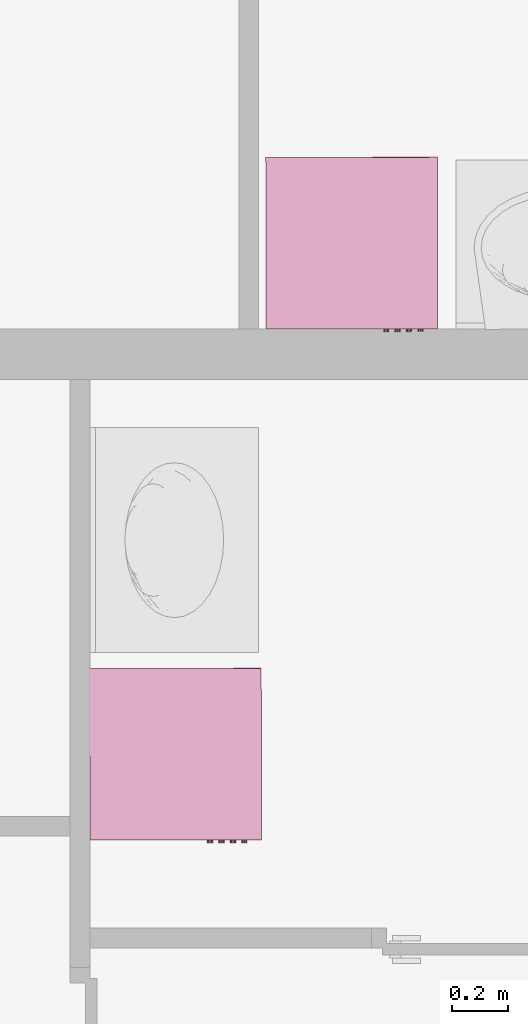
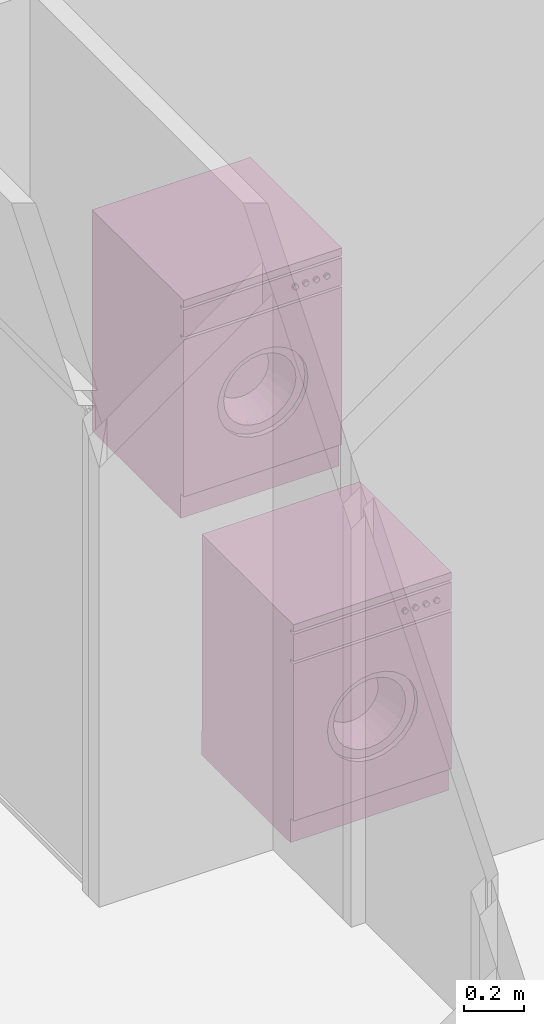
# One storey, part 134 of 171: 2 furnishings.
"""IFC2X3 building model written with IfcOpenShell, lengths in millimetres."""

from ifc_helpers import new_model, entity, si_unit, converted_unit, derived_unit, money_unit, direction, frame, origin_with_axes, place, context, subcontext, project, spatial, open_shell, faceted_brep, surface_model, source, transform, mapped, type_object, element, save


model = new_model("IFC2X3")

# Units and contexts
model_context = context("Model", 3, precision=0.01, world=origin_with_axes(), true_north=direction((0.0, 1.0)))
body_context = subcontext(model_context, "Body", "Model", "MODEL_VIEW")
ifc_project = project(units=[si_unit("LENGTHUNIT", "METRE", prefix="MILLI"), si_unit("AREAUNIT", "SQUARE_METRE"), si_unit("VOLUMEUNIT", "CUBIC_METRE"), converted_unit("PLANEANGLEUNIT", "DEGREE", entity("IfcPlaneAngleMeasure", 0.0174532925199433), si_unit("PLANEANGLEUNIT", "RADIAN"), dimensions=[0, 0, 0, 0, 0, 0, 0]), money_unit("USD"), converted_unit("TIMEUNIT", "Year", entity("IfcTimeMeasure", 31557600.0), si_unit("TIMEUNIT", "SECOND"), dimensions=[0, 0, 1, 0, 0, 0, 0]), si_unit("MASSUNIT", "GRAM", prefix="KILO"), si_unit("THERMODYNAMICTEMPERATUREUNIT", "DEGREE_CELSIUS"), si_unit("LUMINOUSINTENSITYUNIT", "LUMEN"), si_unit("ENERGYUNIT", "JOULE", prefix="MEGA"), derived_unit("THERMALCONDUCTANCEUNIT", [(si_unit("POWERUNIT", "WATT"), 1), (si_unit("LENGTHUNIT", "METRE"), -1), (si_unit("THERMODYNAMICTEMPERATUREUNIT", "KELVIN"), -1)]), derived_unit("SPECIFICHEATCAPACITYUNIT", [(si_unit("ENERGYUNIT", "JOULE"), 1), (si_unit("MASSUNIT", "GRAM", prefix="KILO"), -1), (si_unit("THERMODYNAMICTEMPERATUREUNIT", "KELVIN"), -1)]), derived_unit("MASSDENSITYUNIT", [(si_unit("MASSUNIT", "GRAM", prefix="KILO"), 1), (si_unit("VOLUMEUNIT", "CUBIC_METRE"), -1)])], contexts=[model_context])

# Site, building, storey
site_placement = place(None, origin_with_axes())
site = spatial("IfcSite", under=ifc_project, at=site_placement, Name="Site", CompositionType="ELEMENT")
building_placement = place(site_placement, origin_with_axes())
building = spatial("IfcBuilding", under=site, at=building_placement, Name="Bâtiment", CompositionType="ELEMENT")
storey_placement = place(building_placement, frame((0.0, 0.0, 3000.0), z_axis=(0.0, 0.0, 1.0), x_axis=(1.0, 0.0, 0.0)))
storey = spatial("IfcBuildingStorey", under=building, at=storey_placement, Name="rdc", CompositionType="ELEMENT", Elevation=3000.0)

# Furnishings
furnishing_element_type = type_object("IfcFurnishingElementType", Name="Machine à laver")
shared_shape = source(origin_with_axes(), body_context, "Body", "SurfaceModel", [
    faceted_brep([(0.0, 20.33333333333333, 100.0), (0.0, 0.0, 100.0), (-610.0, 0.0, 100.0), (-610.0, 20.33333333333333, 100.0), (0.0, 20.33333333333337, 740.0), (0.0, 0.0, 740.0), (-610.0, 0.0, 740.0), (-479.2857142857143, 0.0, 420.0000000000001), (-473.3470725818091, 0.0, 465.1084621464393), (-455.935856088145, 0.0, 507.1428571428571), (-428.2386104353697, 0.0, 543.2386104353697), (-392.1428571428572, 0.0, 570.935856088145), (-350.1084621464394, 0.0, 588.347072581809), (-305.0000000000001, 0.0, 594.2857142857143), (-259.8915378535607, 0.0, 588.347072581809), (-217.8571428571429, 0.0, 570.9358560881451), (-181.7613895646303, 0.0, 543.2386104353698), (-154.0641439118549, 0.0, 507.1428571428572), (-136.6529274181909, 0.0, 465.1084621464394), (-130.7142857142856, 0.0, 420.0000000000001), (-136.6529274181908, 0.0, 374.8915378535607), (-154.0641439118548, 0.0, 332.8571428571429), (-181.7613895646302, 0.0, 296.7613895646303), (-217.8571428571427, 0.0, 269.064143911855), (-259.8915378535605, 0.0, 251.6529274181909), (-304.9999999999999, 0.0, 245.7142857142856), (-350.1084621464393, 0.0, 251.6529274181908), (-392.1428571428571, 0.0, 269.0641439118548), (-428.2386104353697, 0.0, 296.7613895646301), (-455.935856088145, 0.0, 332.8571428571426), (-473.3470725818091, 0.0, 374.8915378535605), (-610.0, 20.33333333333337, 740.0), (-479.2857142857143, 20.33333333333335, 420.0000000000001), (-473.3470725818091, 20.33333333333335, 374.8915378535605), (-455.935856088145, 20.33333333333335, 332.8571428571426), (-428.2386104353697, 20.33333333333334, 296.7613895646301), (-392.1428571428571, 20.33333333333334, 269.0641439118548), (-350.1084621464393, 20.33333333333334, 251.6529274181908), (-304.9999999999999, 20.33333333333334, 245.7142857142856), (-259.8915378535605, 20.33333333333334, 251.6529274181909), (-217.8571428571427, 20.33333333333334, 269.064143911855), (-181.7613895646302, 20.33333333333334, 296.7613895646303), (-154.0641439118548, 20.33333333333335, 332.8571428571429), (-136.6529274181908, 20.33333333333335, 374.8915378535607), (-130.7142857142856, 20.33333333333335, 420.0000000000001), (-136.6529274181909, 20.33333333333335, 465.1084621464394), (-154.0641439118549, 20.33333333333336, 507.1428571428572), (-181.7613895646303, 20.33333333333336, 543.2386104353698), (-217.8571428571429, 20.33333333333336, 570.9358560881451), (-259.8915378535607, 20.33333333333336, 588.347072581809), (-305.0000000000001, 20.33333333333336, 594.2857142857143), (-350.1084621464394, 20.33333333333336, 588.347072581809), (-392.1428571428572, 20.33333333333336, 570.935856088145), (-428.2386104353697, 20.33333333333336, 543.2386104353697), (-455.935856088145, 20.33333333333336, 507.1428571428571), (-473.3470725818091, 20.33333333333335, 465.1084621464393)], [[[0, 1, 2, 3]], [[4, 5, 1, 0]], [[1, 5, 6, 2], [7, 8, 9, 10, 11, 12, 13, 14, 15, 16, 17, 18, 19, 20, 21, 22, 23, 24, 25, 26, 27, 28, 29, 30]], [[3, 2, 6, 31]], [[0, 3, 31, 4], [32, 33, 34, 35, 36, 37, 38, 39, 40, 41, 42, 43, 44, 45, 46, 47, 48, 49, 50, 51, 52, 53, 54, 55]], [[31, 6, 5, 4]], [[55, 8, 7, 32]], [[54, 9, 8, 55]], [[53, 10, 9, 54]], [[52, 11, 10, 53]], [[51, 12, 11, 52]], [[50, 13, 12, 51]], [[49, 14, 13, 50]], [[48, 15, 14, 49]], [[47, 16, 15, 48]], [[46, 17, 16, 47]], [[45, 18, 17, 46]], [[44, 19, 18, 45]], [[43, 20, 19, 44]], [[42, 21, 20, 43]], [[41, 22, 21, 42]], [[40, 23, 22, 41]], [[39, 24, 23, 40]], [[38, 25, 24, 39]], [[37, 26, 25, 38]], [[36, 27, 26, 37]], [[35, 28, 27, 36]], [[34, 29, 28, 35]], [[33, 30, 29, 34]], [[32, 7, 30, 33]]]),
    faceted_brep([(-479.2857142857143, 40.66666666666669, 420.0000000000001), (-479.2857142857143, 20.33333333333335, 420.0000000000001), (-473.3470725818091, 20.33333333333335, 465.1084621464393), (-473.3470725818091, 40.66666666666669, 465.1084621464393), (-473.3470725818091, 40.66666666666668, 374.8915378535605), (-473.3470725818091, 20.33333333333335, 374.8915378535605), (-455.935856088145, 20.33333333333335, 332.8571428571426), (-428.2386104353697, 20.33333333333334, 296.7613895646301), (-392.1428571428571, 20.33333333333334, 269.0641439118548), (-350.1084621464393, 20.33333333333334, 251.6529274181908), (-304.9999999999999, 20.33333333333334, 245.7142857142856), (-259.8915378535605, 20.33333333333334, 251.6529274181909), (-217.8571428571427, 20.33333333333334, 269.064143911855), (-181.7613895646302, 20.33333333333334, 296.7613895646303), (-154.0641439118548, 20.33333333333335, 332.8571428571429), (-136.6529274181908, 20.33333333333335, 374.8915378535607), (-130.7142857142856, 20.33333333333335, 420.0000000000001), (-136.6529274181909, 20.33333333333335, 465.1084621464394), (-154.0641439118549, 20.33333333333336, 507.1428571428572), (-181.7613895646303, 20.33333333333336, 543.2386104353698), (-217.8571428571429, 20.33333333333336, 570.9358560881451), (-259.8915378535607, 20.33333333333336, 588.347072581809), (-305.0000000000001, 20.33333333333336, 594.2857142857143), (-350.1084621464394, 20.33333333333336, 588.347072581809), (-392.1428571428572, 20.33333333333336, 570.935856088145), (-428.2386104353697, 20.33333333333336, 543.2386104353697), (-455.935856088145, 20.33333333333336, 507.1428571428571), (-444.4285714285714, 20.33333333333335, 420.0000000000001), (-439.6776580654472, 20.33333333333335, 456.0867697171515), (-425.748684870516, 20.33333333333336, 489.7142857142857), (-403.5908883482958, 20.33333333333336, 518.5908883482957), (-374.7142857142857, 20.33333333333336, 540.748684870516), (-341.0867697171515, 20.33333333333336, 554.6776580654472), (-305.0000000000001, 20.33333333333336, 559.4285714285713), (-268.9132302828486, 20.33333333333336, 554.6776580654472), (-235.2857142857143, 20.33333333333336, 540.7486848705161), (-206.4091116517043, 20.33333333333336, 518.5908883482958), (-184.251315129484, 20.33333333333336, 489.7142857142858), (-170.3223419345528, 20.33333333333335, 456.0867697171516), (-165.5714285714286, 20.33333333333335, 420.0000000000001), (-170.3223419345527, 20.33333333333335, 383.9132302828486), (-184.2513151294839, 20.33333333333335, 350.2857142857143), (-206.4091116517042, 20.33333333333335, 321.4091116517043), (-235.2857142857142, 20.33333333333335, 299.251315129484), (-268.9132302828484, 20.33333333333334, 285.3223419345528), (-304.9999999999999, 20.33333333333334, 280.5714285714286), (-341.0867697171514, 20.33333333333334, 285.3223419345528), (-374.7142857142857, 20.33333333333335, 299.2513151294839), (-403.5908883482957, 20.33333333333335, 321.4091116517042), (-425.748684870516, 20.33333333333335, 350.2857142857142), (-439.6776580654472, 20.33333333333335, 383.9132302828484), (-455.935856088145, 40.66666666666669, 507.1428571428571), (-428.2386104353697, 40.66666666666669, 543.2386104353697), (-392.1428571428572, 40.66666666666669, 570.935856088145), (-350.1084621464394, 40.66666666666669, 588.347072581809), (-305.0000000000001, 40.66666666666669, 594.2857142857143), (-259.8915378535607, 40.66666666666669, 588.347072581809), (-217.8571428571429, 40.66666666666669, 570.9358560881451), (-181.7613895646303, 40.66666666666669, 543.2386104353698), (-154.0641439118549, 40.66666666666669, 507.1428571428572), (-136.6529274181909, 40.66666666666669, 465.1084621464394), (-130.7142857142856, 40.66666666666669, 420.0000000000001), (-136.6529274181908, 40.66666666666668, 374.8915378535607), (-154.0641439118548, 40.66666666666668, 332.8571428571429), (-181.7613895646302, 40.66666666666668, 296.7613895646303), (-217.8571428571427, 40.66666666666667, 269.064143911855), (-259.8915378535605, 40.66666666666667, 251.6529274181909), (-304.9999999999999, 40.66666666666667, 245.7142857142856), (-350.1084621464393, 40.66666666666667, 251.6529274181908), (-392.1428571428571, 40.66666666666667, 269.0641439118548), (-428.2386104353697, 40.66666666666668, 296.7613895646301), (-455.935856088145, 40.66666666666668, 332.8571428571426), (-444.4285714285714, 40.66666666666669, 420.0000000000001), (-439.6776580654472, 40.66666666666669, 383.9132302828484), (-425.748684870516, 40.66666666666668, 350.2857142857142), (-403.5908883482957, 40.66666666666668, 321.4091116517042), (-374.7142857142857, 40.66666666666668, 299.2513151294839), (-341.0867697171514, 40.66666666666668, 285.3223419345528), (-304.9999999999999, 40.66666666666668, 280.5714285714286), (-268.9132302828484, 40.66666666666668, 285.3223419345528), (-235.2857142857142, 40.66666666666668, 299.251315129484), (-206.4091116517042, 40.66666666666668, 321.4091116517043), (-184.2513151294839, 40.66666666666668, 350.2857142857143), (-170.3223419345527, 40.66666666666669, 383.9132302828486), (-165.5714285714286, 40.66666666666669, 420.0000000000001), (-170.3223419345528, 40.66666666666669, 456.0867697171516), (-184.251315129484, 40.66666666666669, 489.7142857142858), (-206.4091116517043, 40.66666666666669, 518.5908883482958), (-235.2857142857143, 40.66666666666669, 540.7486848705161), (-268.9132302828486, 40.66666666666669, 554.6776580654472), (-305.0000000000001, 40.66666666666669, 559.4285714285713), (-341.0867697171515, 40.66666666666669, 554.6776580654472), (-374.7142857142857, 40.66666666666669, 540.748684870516), (-403.5908883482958, 40.66666666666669, 518.5908883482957), (-425.748684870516, 40.66666666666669, 489.7142857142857), (-439.6776580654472, 40.66666666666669, 456.0867697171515)], [[[0, 1, 2, 3]], [[4, 5, 1, 0]], [[1, 5, 6, 7, 8, 9, 10, 11, 12, 13, 14, 15, 16, 17, 18, 19, 20, 21, 22, 23, 24, 25, 26, 2], [27, 28, 29, 30, 31, 32, 33, 34, 35, 36, 37, 38, 39, 40, 41, 42, 43, 44, 45, 46, 47, 48, 49, 50]], [[3, 2, 26, 51]], [[0, 3, 51, 52, 53, 54, 55, 56, 57, 58, 59, 60, 61, 62, 63, 64, 65, 66, 67, 68, 69, 70, 71, 4], [72, 73, 74, 75, 76, 77, 78, 79, 80, 81, 82, 83, 84, 85, 86, 87, 88, 89, 90, 91, 92, 93, 94, 95]], [[71, 6, 5, 4]], [[70, 7, 6, 71]], [[69, 8, 7, 70]], [[68, 9, 8, 69]], [[67, 10, 9, 68]], [[66, 11, 10, 67]], [[65, 12, 11, 66]], [[64, 13, 12, 65]], [[63, 14, 13, 64]], [[62, 15, 14, 63]], [[61, 16, 15, 62]], [[60, 17, 16, 61]], [[59, 18, 17, 60]], [[58, 19, 18, 59]], [[57, 20, 19, 58]], [[56, 21, 20, 57]], [[55, 22, 21, 56]], [[54, 23, 22, 55]], [[53, 24, 23, 54]], [[52, 25, 24, 53]], [[51, 26, 25, 52]], [[95, 28, 27, 72]], [[94, 29, 28, 95]], [[93, 30, 29, 94]], [[92, 31, 30, 93]], [[91, 32, 31, 92]], [[90, 33, 32, 91]], [[89, 34, 33, 90]], [[88, 35, 34, 89]], [[87, 36, 35, 88]], [[86, 37, 36, 87]], [[85, 38, 37, 86]], [[84, 39, 38, 85]], [[83, 40, 39, 84]], [[82, 41, 40, 83]], [[81, 42, 41, 82]], [[80, 43, 42, 81]], [[79, 44, 43, 80]], [[78, 45, 44, 79]], [[77, 46, 45, 78]], [[76, 47, 46, 77]], [[75, 48, 47, 76]], [[74, 49, 48, 75]], [[73, 50, 49, 74]], [[72, 27, 50, 73]]]),
    surface_model("IfcShellBasedSurfaceModel", [(-268.9132302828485, 40.6666666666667, 554.6776580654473), (-277.9349227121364, 142.3333333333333, 521.0082435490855), (-305.0, 142.3333333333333, 524.5714285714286), (-305.0, 40.6666666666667, 559.4285714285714), (-235.2857142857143, 40.6666666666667, 540.7486848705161), (-252.7142857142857, 142.3333333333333, 510.5615136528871), (-231.0568337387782, 142.3333333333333, 493.9431662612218), (-214.438486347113, 142.3333333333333, 472.2857142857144), (-203.9917564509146, 142.3333333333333, 447.0650772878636), (-200.4285714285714, 142.3333333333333, 420.0000000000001), (-203.9917564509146, 142.3333333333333, 392.9349227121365), (-214.4384863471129, 142.3333333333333, 367.7142857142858), (-231.0568337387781, 142.3333333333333, 346.0568337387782), (-252.7142857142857, 142.3333333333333, 329.438486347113), (-277.9349227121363, 142.3333333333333, 318.9917564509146), (-304.9999999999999, 142.3333333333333, 315.4285714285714), (-332.0650772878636, 142.3333333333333, 318.9917564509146), (-357.2857142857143, 142.3333333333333, 329.438486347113), (-378.9431662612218, 142.3333333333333, 346.0568337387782), (-395.561513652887, 142.3333333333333, 367.7142857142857), (-406.0082435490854, 142.3333333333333, 392.9349227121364), (-409.5714285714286, 142.3333333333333, 420.0), (-406.0082435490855, 142.3333333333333, 447.0650772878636), (-395.5615136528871, 142.3333333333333, 472.2857142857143), (-378.9431662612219, 142.3333333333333, 493.9431662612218), (-357.2857142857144, 142.3333333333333, 510.5615136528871), (-332.0650772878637, 142.3333333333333, 521.0082435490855), (-341.0867697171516, 40.6666666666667, 554.6776580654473), (-206.4091116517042, 40.66666666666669, 518.5908883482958), (-184.251315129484, 40.66666666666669, 489.7142857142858), (-170.3223419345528, 40.66666666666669, 456.0867697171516), (-165.5714285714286, 40.66666666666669, 420.0000000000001), (-170.3223419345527, 40.66666666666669, 383.9132302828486), (-184.2513151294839, 40.66666666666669, 350.2857142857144), (-206.4091116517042, 40.66666666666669, 321.4091116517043), (-235.2857142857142, 40.66666666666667, 299.251315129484), (-268.9132302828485, 40.66666666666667, 285.3223419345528), (-304.9999999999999, 40.66666666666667, 280.5714285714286), (-341.0867697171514, 40.66666666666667, 285.3223419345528), (-374.7142857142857, 40.66666666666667, 299.2513151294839), (-403.5908883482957, 40.66666666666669, 321.4091116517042), (-425.748684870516, 40.66666666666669, 350.2857142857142), (-439.6776580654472, 40.66666666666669, 383.9132302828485), (-444.4285714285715, 40.66666666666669, 419.9999999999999), (-439.6776580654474, 40.66666666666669, 456.0867697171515), (-425.7486848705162, 40.66666666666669, 489.7142857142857), (-403.5908883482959, 40.66666666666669, 518.5908883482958), (-374.7142857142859, 40.6666666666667, 540.7486848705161)], [open_shell([[[0, 1, 2, 3]], [[4, 5, 1, 0]], [[2, 1, 5, 6, 7, 8, 9, 10, 11, 12, 13, 14, 15, 16, 17, 18, 19, 20, 21, 22, 23, 24, 25, 26]], [[3, 2, 26, 27]], [[28, 6, 5, 4]], [[29, 7, 6, 28]], [[30, 8, 7, 29]], [[31, 9, 8, 30]], [[32, 10, 9, 31]], [[33, 11, 10, 32]], [[34, 12, 11, 33]], [[35, 13, 12, 34]], [[36, 14, 13, 35]], [[37, 15, 14, 36]], [[38, 16, 15, 37]], [[39, 17, 16, 38]], [[40, 18, 17, 39]], [[41, 19, 18, 40]], [[42, 20, 19, 41]], [[43, 21, 20, 42]], [[44, 22, 21, 43]], [[45, 23, 22, 44]], [[46, 24, 23, 45]], [[47, 25, 24, 46]], [[27, 26, 25, 47]]])]),
    surface_model("IfcShellBasedSurfaceModel", [(0.0, 20.33333333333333, 100.0), (0.0, 610.0, 99.99999999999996), (0.0, 610.0, 870.0), (0.0, 20.33333333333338, 870.0)], [open_shell([[[0, 1, 2, 3]]])]),
    surface_model("IfcShellBasedSurfaceModel", [(-610.0, 20.33333333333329, 100.0), (-610.0, 610.0, 99.99999999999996), (-610.0, 610.0, 870.0), (-610.0, 20.33333333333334, 870.0)], [open_shell([[[0, 1, 2, 3]]])]),
    surface_model("IfcShellBasedSurfaceModel", [(0.0, 610.0, 100.0), (-610.0, 610.0, 100.0), (-610.0, 610.0, 870.0), (0.0, 610.0, 870.0)], [open_shell([[[0, 1, 2, 3]]])]),
    faceted_brep([(0.0, 20.33333333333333, 0.0), (0.0, 20.33333333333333, 100.0), (-610.0, 20.33333333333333, 100.0), (-610.0, 20.33333333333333, 0.0), (0.0, 610.3333333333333, 0.0), (0.0, 610.3333333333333, 100.0), (-610.0, 610.3333333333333, 100.0), (-610.0, 610.3333333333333, 0.0)], [[[0, 1, 2, 3]], [[4, 5, 1, 0]], [[1, 5, 6, 2]], [[3, 2, 6, 7]], [[0, 3, 7, 4]], [[7, 6, 5, 4]]]),
    faceted_brep([(0.0, 20.33333333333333, 750.0), (0.0, 0.0, 750.0), (-610.0, 0.0, 750.0), (-610.0, 20.33333333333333, 750.0), (0.0, 20.33333333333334, 860.0), (0.0, 0.0, 860.0), (-610.0, 0.0, 860.0), (-610.0, 20.33333333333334, 860.0)], [[[0, 1, 2, 3]], [[4, 5, 1, 0]], [[1, 5, 6, 2]], [[3, 2, 6, 7]], [[0, 3, 7, 4]], [[7, 6, 5, 4]]]),
    surface_model("IfcShellBasedSurfaceModel", [(0.0, 20.33333333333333, 739.8333333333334), (-610.0, 20.33333333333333, 739.8333333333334), (-610.0, 20.33333333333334, 869.8333333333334), (0.0, 20.33333333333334, 869.8333333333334)], [open_shell([[[0, 1, 2, 3]]])]),
    faceted_brep([(0.0, 0.0, 870.0), (0.0, 0.0, 900.0), (-610.0, 0.0, 900.0), (-610.0, 0.0, 870.0), (0.0, 610.0, 870.0), (0.0, 610.0, 900.0), (-610.0, 610.0, 900.0), (-610.0, 610.0, 870.0)], [[[0, 1, 2, 3]], [[4, 5, 1, 0]], [[1, 5, 6, 2]], [[3, 2, 6, 7]], [[0, 3, 7, 4]], [[7, 6, 5, 4]]]),
    faceted_brep([(-69.80459160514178, 0.0, 804.9166666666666), (-71.16666666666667, 0.0, 809.9999999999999), (-69.8045916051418, 0.0, 815.0833333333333), (-66.08333333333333, 0.0, 818.8045916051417), (-61.0, 0.0, 820.1666666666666), (-55.91666666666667, 0.0, 818.8045916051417), (-52.19540839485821, 0.0, 815.0833333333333), (-50.83333333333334, 0.0, 809.9999999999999), (-52.1954083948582, 0.0, 804.9166666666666), (-55.91666666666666, 0.0, 801.1954083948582), (-60.99999999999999, 0.0, 799.8333333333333), (-66.08333333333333, 0.0, 801.1954083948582), (-69.80459160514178, -10.16666666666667, 804.9166666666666), (-71.16666666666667, -10.16666666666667, 809.9999999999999), (-69.8045916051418, -10.16666666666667, 815.0833333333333), (-66.08333333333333, -10.16666666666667, 818.8045916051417), (-61.0, -10.16666666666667, 820.1666666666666), (-55.91666666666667, -10.16666666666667, 818.8045916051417), (-52.19540839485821, -10.16666666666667, 815.0833333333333), (-50.83333333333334, -10.16666666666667, 809.9999999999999), (-52.1954083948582, -10.16666666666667, 804.9166666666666), (-55.91666666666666, -10.16666666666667, 801.1954083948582), (-60.99999999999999, -10.16666666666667, 799.8333333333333), (-66.08333333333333, -10.16666666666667, 801.1954083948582)], [[[0, 1, 2, 3, 4, 5, 6, 7, 8, 9, 10, 11]], [[0, 12, 13, 1]], [[1, 13, 14, 2]], [[2, 14, 15, 3]], [[3, 15, 16, 4]], [[4, 16, 17, 5]], [[5, 17, 18, 6]], [[6, 18, 19, 7]], [[7, 19, 20, 8]], [[8, 20, 21, 9]], [[9, 21, 22, 10]], [[10, 22, 23, 11]], [[11, 23, 12, 0]], [[12, 23, 22, 21, 20, 19, 18, 17, 16, 15, 14, 13]]]),
    faceted_brep([(-110.4712582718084, 0.0, 804.9166666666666), (-111.8333333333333, 0.0, 809.9999999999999), (-110.4712582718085, 0.0, 815.0833333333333), (-106.75, 0.0, 818.8045916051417), (-101.6666666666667, 0.0, 820.1666666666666), (-96.58333333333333, 0.0, 818.8045916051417), (-92.86207506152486, 0.0, 815.0833333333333), (-91.49999999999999, 0.0, 809.9999999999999), (-92.86207506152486, 0.0, 804.9166666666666), (-96.58333333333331, 0.0, 801.1954083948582), (-101.6666666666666, 0.0, 799.8333333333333), (-106.75, 0.0, 801.1954083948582), (-110.4712582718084, -10.16666666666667, 804.9166666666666), (-111.8333333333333, -10.16666666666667, 809.9999999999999), (-110.4712582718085, -10.16666666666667, 815.0833333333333), (-106.75, -10.16666666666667, 818.8045916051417), (-101.6666666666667, -10.16666666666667, 820.1666666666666), (-96.58333333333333, -10.16666666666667, 818.8045916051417), (-92.86207506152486, -10.16666666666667, 815.0833333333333), (-91.49999999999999, -10.16666666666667, 809.9999999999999), (-92.86207506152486, -10.16666666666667, 804.9166666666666), (-96.58333333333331, -10.16666666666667, 801.1954083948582), (-101.6666666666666, -10.16666666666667, 799.8333333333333), (-106.75, -10.16666666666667, 801.1954083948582)], [[[0, 1, 2, 3, 4, 5, 6, 7, 8, 9, 10, 11]], [[0, 12, 13, 1]], [[1, 13, 14, 2]], [[2, 14, 15, 3]], [[3, 15, 16, 4]], [[4, 16, 17, 5]], [[5, 17, 18, 6]], [[6, 18, 19, 7]], [[7, 19, 20, 8]], [[8, 20, 21, 9]], [[9, 21, 22, 10]], [[10, 22, 23, 11]], [[11, 23, 12, 0]], [[12, 23, 22, 21, 20, 19, 18, 17, 16, 15, 14, 13]]]),
    faceted_brep([(-151.1379249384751, 0.0, 804.9166666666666), (-152.5, 0.0, 809.9999999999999), (-151.1379249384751, 0.0, 815.0833333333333), (-147.4166666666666, 0.0, 818.8045916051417), (-142.3333333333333, 0.0, 820.1666666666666), (-137.25, 0.0, 818.8045916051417), (-133.5287417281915, 0.0, 815.0833333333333), (-132.1666666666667, 0.0, 809.9999999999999), (-133.5287417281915, 0.0, 804.9166666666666), (-137.25, 0.0, 801.1954083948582), (-142.3333333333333, 0.0, 799.8333333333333), (-147.4166666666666, 0.0, 801.1954083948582), (-151.1379249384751, -10.16666666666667, 804.9166666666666), (-152.5, -10.16666666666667, 809.9999999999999), (-151.1379249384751, -10.16666666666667, 815.0833333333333), (-147.4166666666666, -10.16666666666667, 818.8045916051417), (-142.3333333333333, -10.16666666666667, 820.1666666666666), (-137.25, -10.16666666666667, 818.8045916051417), (-133.5287417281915, -10.16666666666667, 815.0833333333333), (-132.1666666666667, -10.16666666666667, 809.9999999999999), (-133.5287417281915, -10.16666666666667, 804.9166666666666), (-137.25, -10.16666666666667, 801.1954083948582), (-142.3333333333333, -10.16666666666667, 799.8333333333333), (-147.4166666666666, -10.16666666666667, 801.1954083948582)], [[[0, 1, 2, 3, 4, 5, 6, 7, 8, 9, 10, 11]], [[0, 12, 13, 1]], [[1, 13, 14, 2]], [[2, 14, 15, 3]], [[3, 15, 16, 4]], [[4, 16, 17, 5]], [[5, 17, 18, 6]], [[6, 18, 19, 7]], [[7, 19, 20, 8]], [[8, 20, 21, 9]], [[9, 21, 22, 10]], [[10, 22, 23, 11]], [[11, 23, 12, 0]], [[12, 23, 22, 21, 20, 19, 18, 17, 16, 15, 14, 13]]]),
    faceted_brep([(-191.8045916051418, 0.0, 804.9166666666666), (-193.1666666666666, 0.0, 809.9999999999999), (-191.8045916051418, 0.0, 815.0833333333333), (-188.0833333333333, 0.0, 818.8045916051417), (-183.0, 0.0, 820.1666666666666), (-177.9166666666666, 0.0, 818.8045916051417), (-174.1954083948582, 0.0, 815.0833333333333), (-172.8333333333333, 0.0, 809.9999999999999), (-174.1954083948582, 0.0, 804.9166666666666), (-177.9166666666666, 0.0, 801.1954083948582), (-183.0, 0.0, 799.8333333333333), (-188.0833333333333, 0.0, 801.1954083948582), (-191.8045916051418, -10.16666666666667, 804.9166666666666), (-193.1666666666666, -10.16666666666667, 809.9999999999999), (-191.8045916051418, -10.16666666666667, 815.0833333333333), (-188.0833333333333, -10.16666666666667, 818.8045916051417), (-183.0, -10.16666666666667, 820.1666666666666), (-177.9166666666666, -10.16666666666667, 818.8045916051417), (-174.1954083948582, -10.16666666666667, 815.0833333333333), (-172.8333333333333, -10.16666666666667, 809.9999999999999), (-174.1954083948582, -10.16666666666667, 804.9166666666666), (-177.9166666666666, -10.16666666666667, 801.1954083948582), (-183.0, -10.16666666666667, 799.8333333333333), (-188.0833333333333, -10.16666666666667, 801.1954083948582)], [[[0, 1, 2, 3, 4, 5, 6, 7, 8, 9, 10, 11]], [[0, 12, 13, 1]], [[1, 13, 14, 2]], [[2, 14, 15, 3]], [[3, 15, 16, 4]], [[4, 16, 17, 5]], [[5, 17, 18, 6]], [[6, 18, 19, 7]], [[7, 19, 20, 8]], [[8, 20, 21, 9]], [[9, 21, 22, 10]], [[10, 22, 23, 11]], [[11, 23, 12, 0]], [[12, 23, 22, 21, 20, 19, 18, 17, 16, 15, 14, 13]]]),
])
for number, where, z_axis, x_axis, name in (
    (1, (2222316.975857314, -632433.5272401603, 0.0), (0.0, 0.0, 1.0), (0.9999986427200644, 0.00164759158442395, 0.0), "Obj.-003"),
    (2, (2221690.880980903, -634250.1343182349, 0.0), (0.0, 0.0, 1.0), (0.9999986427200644, 0.00164759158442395, 0.0), "Obj.-003"),
):
    element("IfcFurnishingElement", number, at=place(storey_placement, frame(where, z_axis=z_axis, x_axis=x_axis)), inside=storey, type_object=furnishing_element_type, Name=name, context=body_context, shape_type="MappedRepresentation", body=[
        mapped(shared_shape, transform((0.0, 0.0, 0.0))),
    ])

save(model, "model.ifc")
